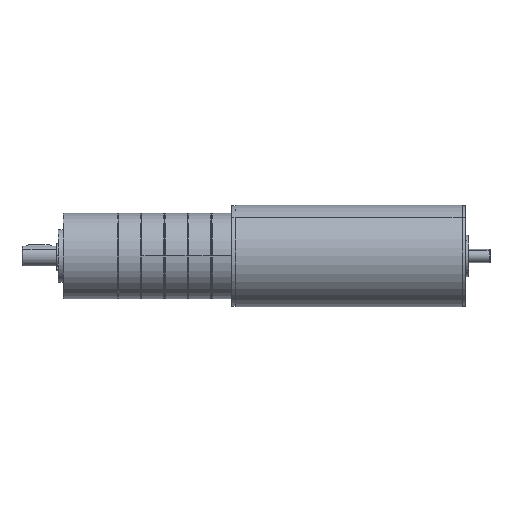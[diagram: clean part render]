
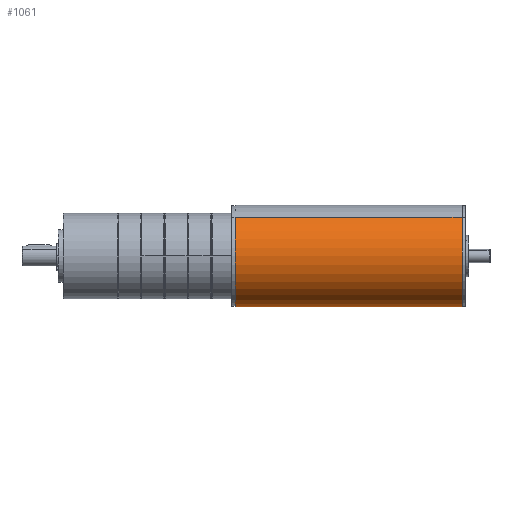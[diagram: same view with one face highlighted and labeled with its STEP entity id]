
A CAD part, front view. The second image highlights one B-rep face of the part: STEP entity #1061.
In plain terms, the highlighted cylindrical face has radius 31 mm (diameter 62 mm), a partial arc.
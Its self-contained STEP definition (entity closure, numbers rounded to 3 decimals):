
#1061 = ADVANCED_FACE ( 'NONE', ( #17844 ), #9757, .T. ) ;
#1474 = EDGE_CURVE ( 'NONE', #2420, #8412, #17479, .T. ) ;
#2152 = EDGE_CURVE ( 'NONE', #15369, #26397, #19367, .T. ) ;
#2420 = VERTEX_POINT ( 'NONE', #25636 ) ;
#2799 = ORIENTED_EDGE ( 'NONE', *, *, #18051, .F. ) ;
#2834 = VECTOR ( 'NONE', #13503, 1000. ) ;
#3633 = CARTESIAN_POINT ( 'NONE',  ( 0., 0., -138.5 ) ) ;
#3895 = VECTOR ( 'NONE', #23644, 1000. ) ;
#4062 = AXIS2_PLACEMENT_3D ( 'NONE', #11784, #11893, #11876 ) ;
#8412 = VERTEX_POINT ( 'NONE', #11702 ) ;
#9639 = ORIENTED_EDGE ( 'NONE', *, *, #1474, .T. ) ;
#9757 = CYLINDRICAL_SURFACE ( 'NONE', #10667, 31. ) ;
#10061 = LINE ( 'NONE', #25611, #3895 ) ;
#10578 = AXIS2_PLACEMENT_3D ( 'NONE', #3633, #11798, #20450 ) ;
#10667 = AXIS2_PLACEMENT_3D ( 'NONE', #26475, #26209, #25320 ) ;
#10926 = ORIENTED_EDGE ( 'NONE', *, *, #22004, .T. ) ;
#11702 = CARTESIAN_POINT ( 'NONE',  ( -31., 0., -0.5 ) ) ;
#11744 = EDGE_LOOP ( 'NONE', ( #2799, #9639, #10926, #12861 ) ) ;
#11784 = CARTESIAN_POINT ( 'NONE',  ( 0., 0., -0.5 ) ) ;
#11798 = DIRECTION ( 'NONE',  ( 0., 0., 1. ) ) ;
#11876 = DIRECTION ( 'NONE',  ( -1., 0., 0. ) ) ;
#11893 = DIRECTION ( 'NONE',  ( 0., 0., -1. ) ) ;
#12861 = ORIENTED_EDGE ( 'NONE', *, *, #2152, .T. ) ;
#13503 = DIRECTION ( 'NONE',  ( 0., 0., -1. ) ) ;
#14493 = CARTESIAN_POINT ( 'NONE',  ( -31., 0., -138.5 ) ) ;
#15369 = VERTEX_POINT ( 'NONE', #14493 ) ;
#17479 = CIRCLE ( 'NONE', #4062, 31. ) ;
#17844 = FACE_OUTER_BOUND ( 'NONE', #11744, .T. ) ;
#18051 = EDGE_CURVE ( 'NONE', #2420, #26397, #24184, .T. ) ;
#19367 = CIRCLE ( 'NONE', #10578, 31. ) ;
#20450 = DIRECTION ( 'NONE',  ( -1., 0., 0. ) ) ;
#21887 = CARTESIAN_POINT ( 'NONE',  ( 31., 0., -138.5 ) ) ;
#22004 = EDGE_CURVE ( 'NONE', #8412, #15369, #10061, .T. ) ;
#23644 = DIRECTION ( 'NONE',  ( 0., 0., -1. ) ) ;
#23820 = CARTESIAN_POINT ( 'NONE',  ( 31., 0., 35.6 ) ) ;
#24184 = LINE ( 'NONE', #23820, #2834 ) ;
#25320 = DIRECTION ( 'NONE',  ( -1., 0., 0. ) ) ;
#25611 = CARTESIAN_POINT ( 'NONE',  ( -31., 0., 35.6 ) ) ;
#25636 = CARTESIAN_POINT ( 'NONE',  ( 31., 0., -0.5 ) ) ;
#26209 = DIRECTION ( 'NONE',  ( 0., 0., -1. ) ) ;
#26397 = VERTEX_POINT ( 'NONE', #21887 ) ;
#26475 = CARTESIAN_POINT ( 'NONE',  ( 0., 0., 35.6 ) ) ;
